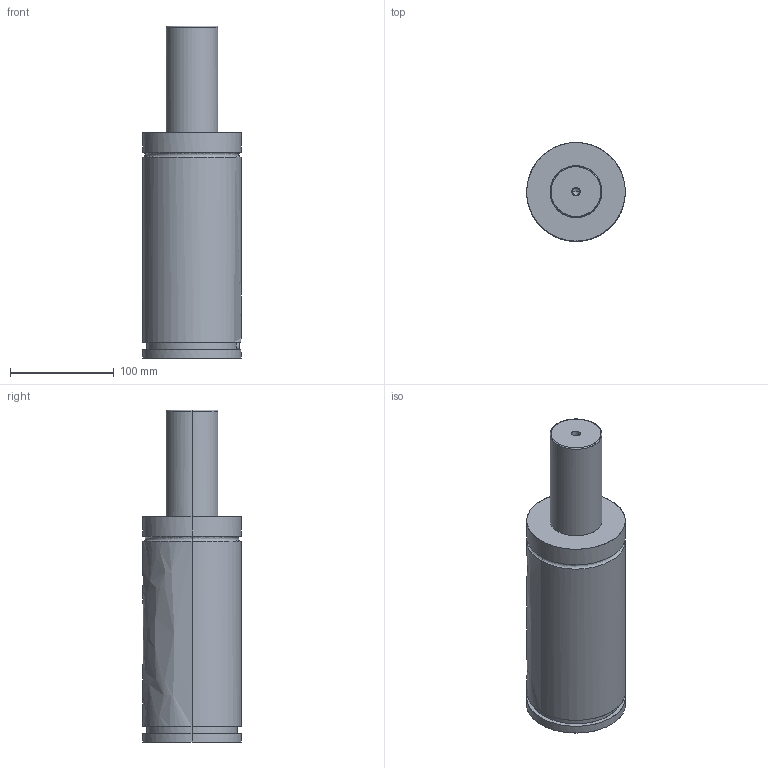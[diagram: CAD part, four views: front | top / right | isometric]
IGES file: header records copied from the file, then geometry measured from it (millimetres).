
Global section: file name: E:\UnigraphicsGraphicData\MISUMI_PRESS-PARTS\IGES\3d_gse95-100_03858_r00.igs; native system: NX V5.0; preprocessor: UGS NX IGES V5.0; author: MISUMI; date: 20110105.160802; units: millimetre
Bounding box: 95 x 95 x 320 mm (x, y, z)
Surface area: 100415 mm2 (no closed solid volume)
Topology: 0 solids, 0 shells, 75 faces, 604 edges, 602 vertices
Faces by surface type: bspline 75
